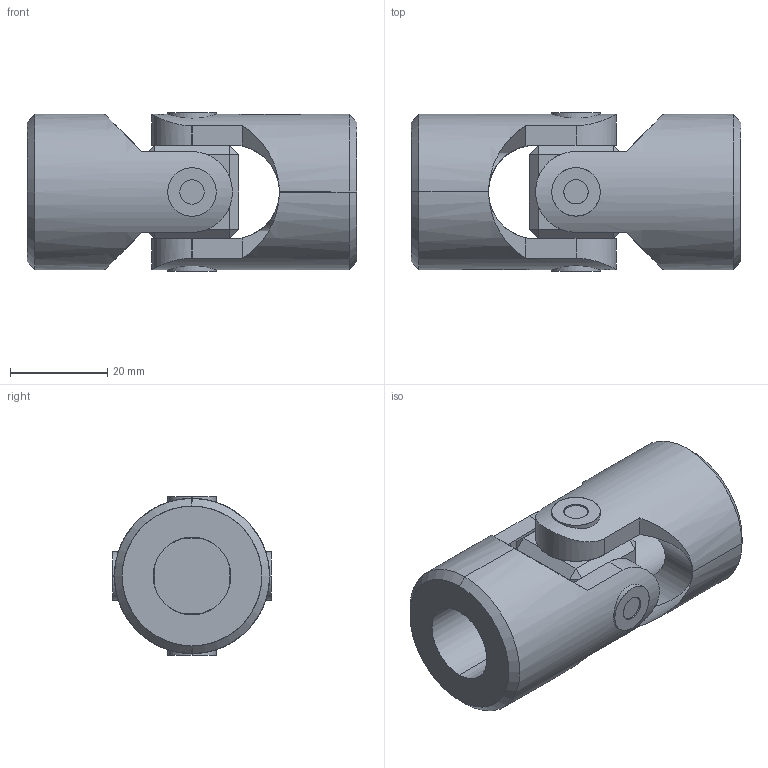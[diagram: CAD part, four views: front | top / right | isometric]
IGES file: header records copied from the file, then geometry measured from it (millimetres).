
Start section: SolidWorks IGES file using analytic representation for surfaces
Global section: file name: C:\Users\IanO\Desktop\R3690_v2\R3690_v2_20231020_IGES\R3690.016-RB.igs; native system: SolidWorks 2019; preprocessor: SolidWorks 2019; author: IanO; date: 231020.152228; units: millimetre
Bounding box: 68 x 32.64 x 32.64 mm (x, y, z)
Surface area: 16228.9 mm2 (no closed solid volume)
Topology: 0 solids, 0 shells, 104 faces, 2268 edges, 2268 vertices
Faces by surface type: bspline 56, revolution 48
